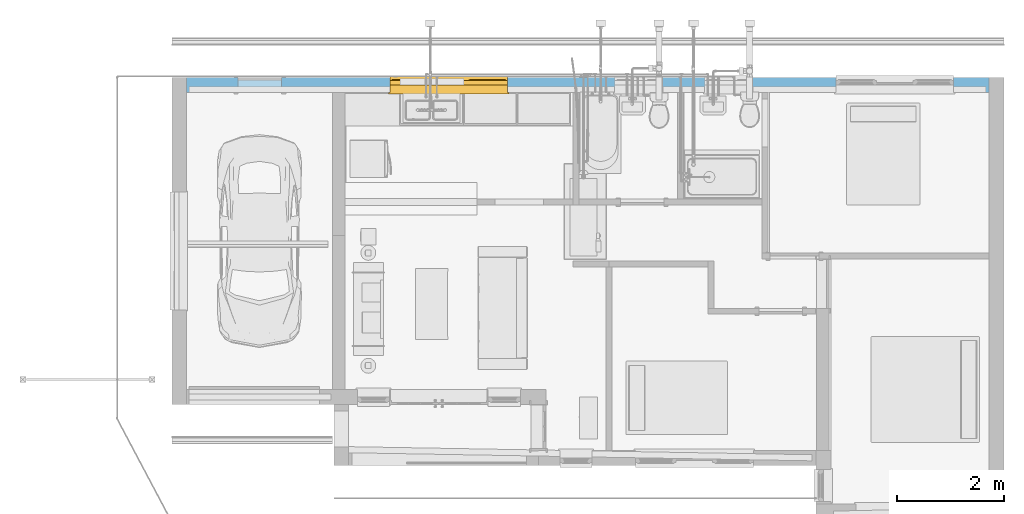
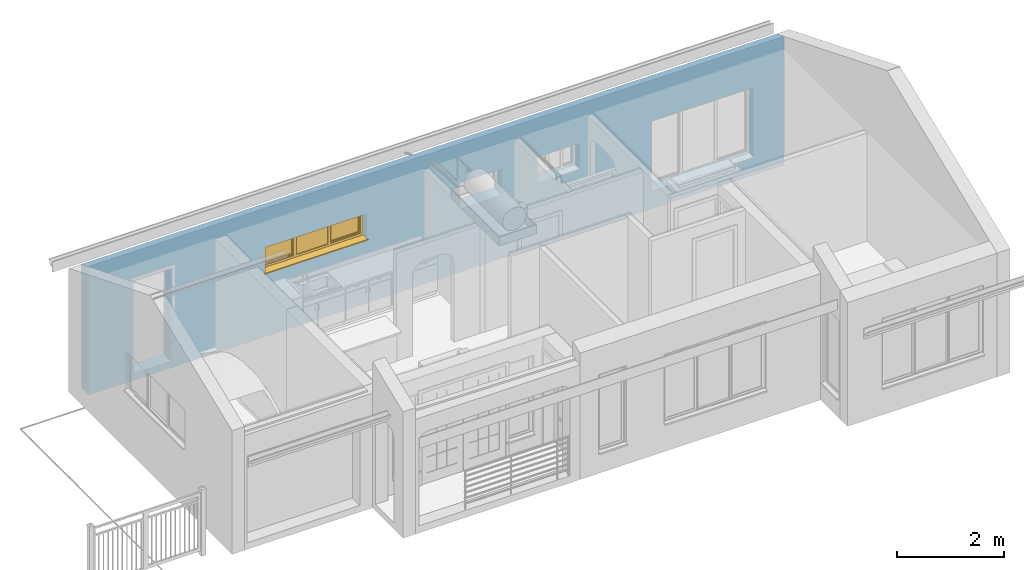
# One storey, part 12 of 41: 1 window, 5 openings, plus 1 element that does not belong to this part.
"""IFC2X3 building model written with IfcOpenShell, lengths in millimetres."""

from ifc_helpers import new_model, entity, si_unit, converted_unit, derived_unit, direction, frame, frame_2d, origin, place, context, subcontext, project, spatial, polyline, rectangle, extrude, clip, bounded_halfspace, faceted_brep, source, transform, mapped, material, material_list, layer, layer_set, layer_usage, type_object, type_shapes, element, fill, save


model = new_model("IFC2X3")

# Units and contexts
model_context = context("Model", 3, precision=0.01, world=origin(), true_north=direction((6.12303176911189e-17, 1.0)))
body_context = subcontext(model_context, "Body", "Model", "MODEL_VIEW")
ifc_project = project(units=[si_unit("LENGTHUNIT", "METRE", prefix="MILLI"), si_unit("AREAUNIT", "SQUARE_METRE"), si_unit("VOLUMEUNIT", "CUBIC_METRE"), converted_unit("PLANEANGLEUNIT", "DEGREE", entity("IfcRatioMeasure", 0.0174532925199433), si_unit("PLANEANGLEUNIT", "RADIAN"), dimensions=[0, 0, 0, 0, 0, 0, 0]), si_unit("MASSUNIT", "GRAM", prefix="KILO"), derived_unit("MASSDENSITYUNIT", [(si_unit("MASSUNIT", "GRAM", prefix="KILO"), 1), (si_unit("LENGTHUNIT", "METRE"), -3)]), si_unit("TIMEUNIT", "SECOND"), si_unit("FREQUENCYUNIT", "HERTZ"), si_unit("THERMODYNAMICTEMPERATUREUNIT", "DEGREE_CELSIUS"), derived_unit("THERMALTRANSMITTANCEUNIT", [(si_unit("MASSUNIT", "GRAM", prefix="KILO"), 1), (si_unit("THERMODYNAMICTEMPERATUREUNIT", "KELVIN"), -1), (si_unit("TIMEUNIT", "SECOND"), -3)]), derived_unit("VOLUMETRICFLOWRATEUNIT", [(si_unit("LENGTHUNIT", "METRE"), 3), (si_unit("TIMEUNIT", "SECOND"), -1)]), si_unit("ELECTRICCURRENTUNIT", "AMPERE"), si_unit("ELECTRICVOLTAGEUNIT", "VOLT"), si_unit("POWERUNIT", "WATT"), si_unit("FORCEUNIT", "NEWTON", prefix="KILO"), si_unit("ILLUMINANCEUNIT", "LUX"), si_unit("LUMINOUSFLUXUNIT", "LUMEN"), si_unit("LUMINOUSINTENSITYUNIT", "CANDELA"), derived_unit("USERDEFINED", [(si_unit("MASSUNIT", "GRAM", prefix="KILO"), -1), (si_unit("LENGTHUNIT", "METRE"), -2), (si_unit("TIMEUNIT", "SECOND"), 3), (si_unit("LUMINOUSFLUXUNIT", "LUMEN"), 1)]), derived_unit("LINEARVELOCITYUNIT", [(si_unit("LENGTHUNIT", "METRE"), 1), (si_unit("TIMEUNIT", "SECOND"), -1)]), si_unit("PRESSUREUNIT", "PASCAL"), derived_unit("USERDEFINED", [(si_unit("LENGTHUNIT", "METRE"), -2), (si_unit("MASSUNIT", "GRAM", prefix="KILO"), 1), (si_unit("TIMEUNIT", "SECOND"), -2)])], contexts=[model_context])

# Site, building, storey
site_placement = place(None, origin())
site = spatial("IfcSite", under=ifc_project, at=site_placement, Name="Surface", CompositionType="ELEMENT")
building_placement = place(site_placement, origin())
building = spatial("IfcBuilding", under=site, at=building_placement, CompositionType="ELEMENT")
storey_placement = place(building_placement, frame((0.0, 0.0, 300.0)))
storey = spatial("IfcBuildingStorey", under=building, at=storey_placement, Name="F.F.L", CompositionType="ELEMENT", Elevation=300.0)

# Wall, openings, window
ifc_material_1 = material(Name="Brickwork - Facebrick (Plettenberg Autumn)")
ifc_layer_1 = layer(ifc_material_1, 110.0)
ifc_material_2 = material(Name="Air Infiltration Barrier")
ifc_layer_2 = layer(ifc_material_2, 50.0)
ifc_material_3 = material(Name="Brickwork - 110mm (Stock)")
ifc_layer_3 = layer(ifc_material_3, 110.0)
ifc_material_4 = material(Name="Plaster")
ifc_layer_4 = layer(ifc_material_4, 10.0)
ifc_layer_set = layer_set([ifc_layer_1, ifc_layer_2, ifc_layer_3, ifc_layer_4], Name="Basic Wall:BrickWall - 270mm (Ext.F&Int.S)")
ifc_layer_usage = layer_usage(ifc_layer_set, "AXIS2", "NEGATIVE", 140.0)
wall_type = type_object("IfcWallType", Name="Basic Wall:BrickWall - 270mm (Ext.F&Int.S)", PredefinedType="STANDARD", material=ifc_layer_set)
wall_placement = place(storey_placement, frame((-11816.8751700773, 10685.8400891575, -150.0)))
wall = element("IfcWallStandardCase", 1, at=wall_placement, inside=storey, type_object=wall_type, material=ifc_layer_usage, Name="Basic Wall:BrickWall - 270mm (Ext.F&Int.S)", ObjectType="Basic Wall:BrickWall - 270mm (Ext.F&Int.S)", context=body_context, shape_type="Clipping", body=[
    clip(extrude(rectangle(XDim=15000.0, YDim=280.000000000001, at=frame_2d((7500.0, 1.98951966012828e-13), x_axis=(-1.0, 0.0))), origin(), (0.0, 0.0, 1.0), 2933.40741269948), bounded_halfspace(frame((0.0, -140.0, 2933.40741269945), z_axis=(0.0, 0.374606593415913, 0.927183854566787), x_axis=(-1.0, 0.0, 0.0)), False, frame((0.0, -140.0, 2933.40741269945)), polyline([(0.0, 0.0), (2730.0, 0.0), (2960.0, 0.0), (15000.0, 0.0), (15000.0, 280.0), (0.0, 280.0), (0.0, 0.0)]))),
])
opening_1_placement = place(wall_placement, frame((12140.0, -140.0, 400.0)))
element("IfcOpeningElement", 2, at=opening_1_placement, cuts=wall, Name="Tpl All Bars1:Tpl All Bars 4:1", ObjectType="Opening", context=body_context, shape_type="SweptSolid", body=[
    extrude(rectangle(XDim=1600.0, YDim=2200.0, at=frame_2d((800.0, 1100.0), x_axis=(-1.0, 0.0))), frame((0.0, 0.0, 0.0), z_axis=(0.0, 1.0, 0.0), x_axis=(0.0, 0.0, 1.0)), (0.0, 0.0, 1.0), 280.0),
])
opening_2_placement = place(wall_placement, frame((968.500000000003, -140.0, 150.0)))
element("IfcOpeningElement", 3, at=opening_2_placement, cuts=wall, Name="M_Single-Flush:0813 x 2134mm:1", ObjectType="Opening", context=body_context, shape_type="SweptSolid", body=[
    extrude(rectangle(XDim=813.0, YDim=2134.0, at=frame_2d((1067.0, 406.5), x_axis=(0.0, 1.0))), frame((0.0, 0.0, 0.0), z_axis=(0.0, 1.0, 0.0), x_axis=(0.0, 0.0, 1.0)), (0.0, 0.0, 1.0), 280.0),
])
opening_3_placement = place(wall_placement, frame((3805.0, -140.0, 1444.0)))
opening_3 = element("IfcOpeningElement", 4, at=opening_3_placement, cuts=wall, Name="Tpl All Bars1:Tpl All Bars 2:1", ObjectType="Opening", context=body_context, shape_type="SweptSolid", body=[
    extrude(rectangle(XDim=600.000000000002, YDim=2200.0, at=frame_2d((300.000000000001, 1100.0), x_axis=(-1.0, 0.0))), frame((0.0, 0.0, 0.0), z_axis=(0.0, 1.0, 0.0), x_axis=(0.0, 0.0, 1.0)), (0.0, 0.0, 1.0), 280.0),
])
opening_4_placement = place(wall_placement, frame((9685.0, -140.0, 1444.0)))
element("IfcOpeningElement", 5, at=opening_4_placement, cuts=wall, Name="Tpl All Bars1:Tpl All Bars 3:1", ObjectType="Opening", context=body_context, shape_type="SweptSolid", body=[
    extrude(rectangle(XDim=600.000000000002, YDim=899.999999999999, at=frame_2d((300.000000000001, 449.999999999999), x_axis=(-1.0, 0.0))), frame((0.0, 0.0, 0.0), z_axis=(0.0, 1.0, 0.0), x_axis=(0.0, 0.0, 1.0)), (0.0, 0.0, 1.0), 280.0),
])
opening_5_placement = place(wall_placement, frame((8005.0, -140.0, 1444.0)))
element("IfcOpeningElement", 6, at=opening_5_placement, cuts=wall, Name="Tpl All Bars1:Tpl All Bars 3:1", ObjectType="Opening", context=body_context, shape_type="SweptSolid", body=[
    extrude(rectangle(XDim=600.000000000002, YDim=899.999999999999, at=frame_2d((300.000000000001, 449.999999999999), x_axis=(-1.0, 0.0))), frame((0.0, 0.0, 0.0), z_axis=(0.0, 1.0, 0.0), x_axis=(0.0, 0.0, 1.0)), (0.0, 0.0, 1.0), 280.0),
])
ifc_material_5 = material(Name="Meranti - Varnish Mat")
ifc_material_6 = material(Name="Glass")
ifc_material_list_1 = material_list([ifc_material_5, ifc_material_6])
ifc_material_list_2 = material_list([ifc_material_5, ifc_material_6])
window_style = type_object("IfcWindowStyle", Name="Tpl All Bars 2", ConstructionType="NOTDEFINED", OperationType="TRIPLE_PANEL_VERTICAL", ParameterTakesPrecedence=False, Sizeable=False, material=ifc_material_list_2)
shared_shape = source(origin(), body_context, "Body", "Brep", [
    faceted_brep([(-25.0, -25.0, 0.0), (-25.0, 0.0, 0.0), (0.0, 0.0, 0.0), (0.0, 147.0, 0.0), (2200.0, 147.0, 0.0), (2200.0, 0.0, 0.0), (2225.0, 0.0, 0.0), (2225.0, -25.0, 0.0), (-25.0, -25.0, 25.0), (2225.0, -25.0, 25.0), (2225.0, 0.0, 25.0), (2200.0, 0.0, 25.0), (2200.0, 147.0, 25.0), (0.0, 147.0, 25.0), (0.0, 0.0, 25.0), (-25.0, 0.0, 25.0)], [[[0, 1, 2, 3, 4, 5, 6, 7]], [[8, 9, 10, 11, 12, 13, 14, 15]], [[1, 0, 8, 15]], [[2, 1, 15, 14]], [[3, 2, 14, 13]], [[4, 3, 13, 12]], [[5, 4, 12, 11]], [[6, 5, 11, 10]], [[7, 6, 10, 9]], [[0, 7, 9, 8]]]),
    faceted_brep([(2140.0, 147.0, 540.0), (2140.0, 147.0, 75.0), (1499.66666666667, 147.0, 75.0), (1499.66666666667, 147.0, 540.0), (1441.66666666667, 147.0, 540.0), (1441.66666666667, 147.0, 75.0), (758.333333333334, 147.0, 75.0), (758.333333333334, 147.0, 540.0), (700.333333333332, 147.0, 540.0), (700.333333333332, 147.0, 75.0), (60.0, 147.0, 75.0), (60.0, 147.0, 540.0), (2200.0, 147.0, 600.0), (0.0, 147.0, 600.0), (0.0, 147.0, 0.0), (2200.0, 147.0, 0.0), (0.0, 230.0, 600.0), (0.0, 230.0, 51.0), (0.0, 245.0, 49.6876700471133), (0.0, 245.0, 44.7449676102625), (0.0, 317.500000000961, 33.808884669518), (0.0, 317.500000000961, 0.0), (2200.0, 230.0, 600.0), (2200.0, 230.0, 51.0), (40.0, 230.0, 560.0), (40.0, 230.0, 63.0), (718.333333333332, 230.0, 63.0), (718.333333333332, 230.0, 560.0), (758.333333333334, 230.0, 560.0), (758.333333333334, 230.0, 63.0), (1441.66666666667, 230.0, 63.0), (1441.66666666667, 230.0, 560.0), (1481.66666666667, 230.0, 560.0), (1481.66666666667, 230.0, 63.0), (2160.0, 230.0, 63.0), (2160.0, 230.0, 560.0), (40.0, 165.0, 560.0), (40.0, 165.0, 63.0), (718.333333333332, 165.0, 560.0), (718.333333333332, 165.0, 63.0), (700.333333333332, 165.0, 540.0), (60.0, 165.0, 540.0), (60.0, 165.0, 75.0), (700.333333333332, 165.0, 75.0), (2200.0, 317.500000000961, 0.0), (2200.0, 317.500000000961, 33.808884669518), (2200.0, 245.0, 44.7449676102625), (2200.0, 245.0, 49.6876700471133), (2160.0, 165.0, 63.0), (2160.0, 165.0, 560.0), (2140.0, 165.0, 540.0), (2140.0, 165.0, 75.0), (758.333333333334, 165.0, 540.0), (758.333333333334, 165.0, 75.0), (758.333333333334, 189.0, 560.0), (758.333333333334, 189.0, 63.0), (748.333333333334, 189.0, 560.0), (748.333333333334, 189.0, 63.0), (748.333333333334, 165.0, 560.0), (748.333333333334, 165.0, 63.0), (1451.66666666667, 189.0, 560.0), (1451.66666666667, 189.0, 63.0), (1451.66666666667, 165.0, 63.0), (1451.66666666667, 165.0, 560.0), (1441.66666666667, 189.0, 560.0), (1441.66666666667, 189.0, 63.0), (1481.66666666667, 165.0, 560.0), (1481.66666666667, 165.0, 63.0), (1499.66666666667, 165.0, 540.0), (1499.66666666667, 165.0, 75.0), (1441.66666666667, 165.0, 540.0), (1441.66666666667, 165.0, 75.0)], [[[0, 1, 2, 3], [4, 5, 6, 7], [8, 9, 10, 11], [12, 13, 14, 15]], [[14, 13, 16, 17, 18, 19, 20, 21]], [[17, 16, 22, 23], [24, 25, 26, 27], [28, 29, 30, 31], [32, 33, 34, 35]], [[25, 24, 36, 37]], [[36, 38, 39, 37], [40, 41, 42, 43]], [[41, 11, 10, 42]], [[13, 12, 22, 16]], [[36, 24, 27, 38]], [[11, 41, 40, 8]], [[23, 22, 12, 15, 44, 45, 46, 47]], [[35, 34, 48, 49]], [[0, 50, 51, 1]], [[52, 7, 6, 53]], [[8, 40, 43, 9]], [[27, 26, 39, 38]], [[29, 28, 54, 55]], [[55, 54, 56, 57]], [[57, 56, 58, 59]], [[60, 61, 62, 63]], [[61, 60, 64, 65]], [[65, 64, 31, 30]], [[33, 32, 66, 67]], [[68, 3, 2, 69]], [[4, 70, 71, 5]], [[44, 15, 14, 21]], [[45, 44, 21, 20]], [[46, 45, 20, 19]], [[47, 46, 19, 18]], [[23, 47, 18, 17]], [[34, 33, 67, 48]], [[2, 1, 51, 69]], [[71, 53, 6, 5]], [[43, 42, 10, 9]], [[59, 62, 61, 65, 30, 29, 55, 57]], [[26, 25, 37, 39]], [[7, 52, 70, 4]], [[50, 0, 3, 68]], [[54, 28, 31, 64, 60, 63, 58, 56]], [[35, 49, 66, 32]], [[58, 63, 62, 59], [70, 52, 53, 71]], [[66, 49, 48, 67], [50, 68, 69, 51]]], outer=[[False, False, False, True], [True], [True, False, False, False], [True], [True, False], [True], [True], [True], [True], [True], [True], [True], [True], [True], [True], [True], [True], [True], [True], [True], [True], [True], [True], [True], [True], [True], [True], [True], [True], [True], [True], [True], [True], [True], [True], [True], [True], [True], [True], [True, False], [True, False]]),
    faceted_brep([(2130.0, 194.0, 530.0), (1511.66666666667, 194.0, 530.0), (1511.66666666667, 194.0, 93.0), (2130.0, 194.0, 93.0), (2130.0, 218.0, 530.0), (2130.0, 218.0, 93.0), (1511.66666666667, 218.0, 93.0), (1511.66666666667, 218.0, 530.0)], [[[0, 1, 2, 3]], [[4, 5, 6, 7]], [[1, 0, 4, 7]], [[2, 1, 7, 6]], [[3, 2, 6, 5]], [[0, 3, 5, 4]]]),
    faceted_brep([(1451.66666666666, 189.0, 560.0), (1451.66666666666, 189.0, 63.0), (748.333333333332, 189.0, 63.0), (748.333333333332, 189.0, 560.0), (1451.66666666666, 165.0, 560.0), (748.333333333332, 165.0, 560.0), (748.333333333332, 165.0, 63.0), (1451.66666666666, 165.0, 63.0)], [[[0, 1, 2, 3]], [[4, 5, 6, 7]], [[1, 0, 4, 7]], [[2, 1, 7, 6]], [[3, 2, 6, 5]], [[0, 3, 5, 4]]]),
    faceted_brep([(70.0, 194.0, 530.148037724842), (70.0, 194.0, 93.0), (688.481371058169, 194.0, 93.0), (688.481371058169, 194.0, 530.148037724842), (70.0, 218.0, 530.148037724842), (688.481371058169, 218.0, 530.148037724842), (688.481371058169, 218.0, 93.0), (70.0, 218.0, 93.0)], [[[0, 1, 2, 3]], [[4, 5, 6, 7]], [[1, 0, 4, 7]], [[2, 1, 7, 6]], [[3, 2, 6, 5]], [[0, 3, 5, 4]]]),
    faceted_brep([(728.333333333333, 230.0, 570.0), (728.333333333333, 235.773502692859, 570.0), (30.0, 235.773502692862, 570.0), (30.0, 230.0, 570.0), (718.333333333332, 165.0, 560.0), (718.333333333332, 230.0, 560.0), (40.0, 230.0, 560.0), (40.0, 165.0, 560.0), (678.333333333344, 179.492899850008, 520.0), (688.481371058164, 165.0, 530.148037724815), (69.8519622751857, 165.0, 530.148037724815), (80.0, 179.49289985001, 520.0), (678.333333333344, 194.0, 520.0), (80.0, 194.0, 520.0), (688.333333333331, 218.0, 530.0), (688.333333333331, 194.0, 530.0), (70.0, 194.0, 530.0), (70.0, 218.0, 530.0), (678.333333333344, 235.773502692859, 520.0), (678.333333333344, 218.0, 520.0), (80.0, 218.0, 520.0), (80.0, 235.773502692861, 520.0), (695.779088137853, 241.547005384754, 537.445754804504), (62.5542451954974, 241.547005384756, 537.445754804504), (717.548723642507, 241.547005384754, 559.215390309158), (40.7846096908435, 241.547005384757, 559.215390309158), (30.0, 235.773502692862, 53.0), (30.0, 230.0, 53.0), (40.0, 230.0, 63.0), (40.0, 165.0, 63.0), (69.851962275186, 165.0, 92.8519622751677), (80.0, 179.49289985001, 103.0), (80.0, 194.0, 103.0), (70.0, 194.0, 93.0), (70.0, 218.0, 93.0), (80.0, 218.0, 103.0), (80.0, 235.773502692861, 103.0), (62.5542451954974, 241.547005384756, 85.5542451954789), (40.7846096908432, 241.547005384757, 63.7846096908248), (728.333333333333, 235.773502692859, 53.0), (728.333333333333, 230.0, 53.0), (718.333333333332, 230.0, 63.0), (718.333333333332, 165.0, 63.0), (688.481371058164, 165.0, 92.8519622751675), (678.333333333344, 179.492899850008, 103.0), (678.333333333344, 194.0, 103.0), (688.333333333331, 194.0, 93.0), (688.333333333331, 218.0, 93.0), (678.333333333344, 218.0, 103.0), (678.333333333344, 235.773502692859, 103.0), (695.779088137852, 241.547005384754, 85.5542451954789), (717.548723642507, 241.547005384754, 63.7846096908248)], [[[0, 1, 2, 3]], [[4, 5, 6, 7]], [[8, 9, 10, 11]], [[12, 8, 11, 13]], [[14, 15, 16, 17]], [[18, 19, 20, 21]], [[22, 18, 21, 23]], [[1, 24, 25, 2]], [[3, 2, 26, 27]], [[7, 6, 28, 29]], [[11, 10, 30, 31]], [[13, 11, 31, 32]], [[17, 16, 33, 34]], [[21, 20, 35, 36]], [[23, 21, 36, 37]], [[2, 25, 38, 26]], [[27, 26, 39, 40]], [[0, 3, 27, 40], [41, 28, 6, 5]], [[29, 28, 41, 42]], [[4, 7, 29, 42], [43, 30, 10, 9]], [[31, 30, 43, 44]], [[32, 31, 44, 45]], [[12, 13, 32, 45], [46, 33, 16, 15]], [[34, 33, 46, 47]], [[14, 17, 34, 47], [48, 35, 20, 19]], [[36, 35, 48, 49]], [[37, 36, 49, 50]], [[22, 23, 37, 50], [51, 38, 25, 24]], [[26, 38, 51, 39]], [[40, 39, 1, 0]], [[42, 41, 5, 4]], [[44, 43, 9, 8]], [[45, 44, 8, 12]], [[47, 46, 15, 14]], [[49, 48, 19, 18]], [[50, 49, 18, 22]], [[39, 51, 24, 1]]], outer=[[True], [True], [True], [True], [True], [True], [True], [True], [True], [True], [True], [True], [True], [True], [True], [True], [True], [True, False], [True], [True, False], [True], [True], [False, True], [True], [True, False], [True], [True], [False, True], [True], [True], [True], [True], [True], [True], [True], [True], [True]]),
    faceted_brep([(1471.66666666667, 230.0, 570.0), (1471.66666666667, 235.773502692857, 570.0), (1471.66666666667, 235.773502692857, 53.0), (1471.66666666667, 230.0, 53.0), (1481.66666666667, 165.0, 560.0), (1481.66666666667, 230.0, 560.0), (1481.66666666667, 230.0, 63.0), (1481.66666666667, 165.0, 63.0), (1521.66666666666, 179.492899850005, 520.0), (1511.51862894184, 165.0, 530.148037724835), (1511.51862894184, 165.0, 92.8519622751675), (1521.66666666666, 179.492899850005, 103.0), (1521.66666666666, 194.0, 520.0), (1521.66666666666, 194.0, 103.0), (1511.66666666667, 218.0, 530.0), (1511.66666666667, 194.0, 530.0), (1511.66666666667, 194.0, 93.0), (1511.66666666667, 218.0, 93.0), (1521.66666666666, 235.773502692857, 520.0), (1521.66666666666, 218.0, 520.0), (1521.66666666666, 218.0, 103.0), (1521.66666666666, 235.773502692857, 103.0), (1504.22091186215, 241.547005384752, 537.445754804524), (1504.22091186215, 241.547005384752, 85.5542451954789), (1482.45127635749, 241.547005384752, 559.215390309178), (1482.45127635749, 241.547005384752, 63.7846096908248), (2170.0, 235.773502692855, 53.0), (2170.0, 230.0, 53.0), (2160.0, 230.0, 63.0), (2160.0, 165.0, 63.0), (2130.14803772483, 165.0, 92.8519622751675), (2120.0, 179.492899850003, 103.0), (2120.0, 194.0, 103.0), (2130.0, 194.0, 93.0), (2130.0, 218.0, 93.0), (2120.0, 218.0, 103.0), (2120.0, 235.773502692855, 103.0), (2137.44575480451, 241.54700538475, 85.5542451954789), (2159.21539030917, 241.54700538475, 63.784609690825), (2170.0, 235.773502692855, 570.0), (2170.0, 230.0, 570.0), (2160.0, 230.0, 560.0), (2160.0, 165.0, 560.0), (2130.14803772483, 165.0, 530.148037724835), (2120.0, 179.492899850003, 520.0), (2120.0, 194.0, 520.0), (2130.0, 194.0, 530.0), (2130.0, 218.0, 530.0), (2120.0, 218.0, 520.0), (2120.0, 235.773502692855, 520.0), (2137.44575480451, 241.54700538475, 537.445754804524), (2159.21539030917, 241.54700538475, 559.215390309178)], [[[0, 1, 2, 3]], [[4, 5, 6, 7]], [[8, 9, 10, 11]], [[12, 8, 11, 13]], [[14, 15, 16, 17]], [[18, 19, 20, 21]], [[22, 18, 21, 23]], [[1, 24, 25, 2]], [[3, 2, 26, 27]], [[7, 6, 28, 29]], [[11, 10, 30, 31]], [[13, 11, 31, 32]], [[17, 16, 33, 34]], [[21, 20, 35, 36]], [[23, 21, 36, 37]], [[2, 25, 38, 26]], [[27, 26, 39, 40]], [[29, 28, 41, 42]], [[31, 30, 43, 44]], [[32, 31, 44, 45]], [[34, 33, 46, 47]], [[36, 35, 48, 49]], [[37, 36, 49, 50]], [[26, 38, 51, 39]], [[40, 39, 1, 0]], [[3, 27, 40, 0], [5, 41, 28, 6]], [[42, 41, 5, 4]], [[7, 29, 42, 4], [9, 43, 30, 10]], [[44, 43, 9, 8]], [[45, 44, 8, 12]], [[13, 32, 45, 12], [15, 46, 33, 16]], [[47, 46, 15, 14]], [[17, 34, 47, 14], [19, 48, 35, 20]], [[49, 48, 19, 18]], [[50, 49, 18, 22]], [[23, 37, 50, 22], [24, 51, 38, 25]], [[39, 51, 24, 1]]], outer=[[True], [True], [True], [True], [True], [True], [True], [True], [True], [True], [True], [True], [True], [True], [True], [True], [True], [True], [True], [True], [True], [True], [True], [True], [True], [True, False], [True], [True, False], [True], [True], [False, True], [True], [True, False], [True], [True], [False, True], [True]]),
    faceted_brep([(1090.0, 173.0, 63.0), (1110.0, 173.0, 63.0), (1110.0, 173.0, 218.666666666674), (1451.66666666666, 173.0, 218.666666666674), (1451.66666666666, 173.0, 238.666666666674), (1110.0, 173.0, 238.666666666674), (1110.0, 173.0, 384.333333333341), (1451.66666666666, 173.0, 384.333333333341), (1451.66666666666, 173.0, 404.333333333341), (1110.0, 173.0, 404.333333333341), (1110.0, 173.0, 560.0), (1090.0, 173.0, 560.0), (1090.0, 173.0, 404.333333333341), (748.33333333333, 173.0, 404.333333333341), (748.33333333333, 173.0, 384.333333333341), (1090.0, 173.0, 384.333333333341), (1090.0, 173.0, 238.666666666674), (748.33333333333, 173.0, 238.666666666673), (748.33333333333, 173.0, 218.666666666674), (1090.0, 173.0, 218.666666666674), (1090.0, 181.0, 63.0), (1090.0, 181.0, 218.666666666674), (748.33333333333, 181.0, 218.666666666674), (748.33333333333, 181.0, 238.666666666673), (1090.0, 181.0, 238.666666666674), (1090.0, 181.0, 384.333333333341), (748.33333333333, 181.0, 384.333333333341), (748.33333333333, 181.0, 404.333333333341), (1090.0, 181.0, 404.333333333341), (1090.0, 181.0, 560.0), (1110.0, 181.0, 560.0), (1110.0, 181.0, 404.333333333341), (1451.66666666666, 181.0, 404.333333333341), (1451.66666666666, 181.0, 384.333333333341), (1110.0, 181.0, 384.333333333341), (1110.0, 181.0, 238.666666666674), (1451.66666666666, 181.0, 238.666666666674), (1451.66666666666, 181.0, 218.666666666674), (1110.0, 181.0, 218.666666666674), (1110.0, 181.0, 63.0)], [[[0, 1, 2, 3, 4, 5, 6, 7, 8, 9, 10, 11, 12, 13, 14, 15, 16, 17, 18, 19]], [[20, 21, 22, 23, 24, 25, 26, 27, 28, 29, 30, 31, 32, 33, 34, 35, 36, 37, 38, 39]], [[1, 0, 20, 39]], [[2, 1, 39, 38]], [[3, 2, 38, 37]], [[4, 3, 37, 36]], [[5, 4, 36, 35]], [[6, 5, 35, 34]], [[7, 6, 34, 33]], [[8, 7, 33, 32]], [[9, 8, 32, 31]], [[10, 9, 31, 30]], [[11, 10, 30, 29]], [[12, 11, 29, 28]], [[13, 12, 28, 27]], [[14, 13, 27, 26]], [[15, 14, 26, 25]], [[16, 15, 25, 24]], [[17, 16, 24, 23]], [[18, 17, 23, 22]], [[19, 18, 22, 21]], [[0, 19, 21, 20]]]),
    faceted_brep([(369.166666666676, 210.0, 93.0), (369.166666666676, 210.0, 218.666666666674), (70.0, 210.0, 218.666666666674), (70.0, 210.0, 238.666666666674), (369.166666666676, 210.0, 238.666666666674), (369.166666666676, 210.0, 384.333333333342), (70.0, 210.0, 384.333333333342), (70.0, 210.0, 404.333333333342), (369.166666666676, 210.0, 404.333333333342), (369.166666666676, 210.0, 530.0), (389.166666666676, 210.0, 530.0), (389.166666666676, 210.0, 404.333333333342), (688.333333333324, 210.0, 404.333333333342), (688.333333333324, 210.0, 384.333333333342), (389.166666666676, 210.0, 384.333333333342), (389.166666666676, 210.0, 238.666666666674), (688.333333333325, 210.0, 238.666666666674), (688.333333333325, 210.0, 218.666666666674), (389.166666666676, 210.0, 218.666666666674), (389.166666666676, 210.0, 93.0), (369.166666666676, 202.0, 93.0), (389.166666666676, 202.0, 93.0), (389.166666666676, 202.0, 218.666666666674), (688.333333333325, 202.0, 218.666666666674), (688.333333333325, 202.0, 238.666666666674), (389.166666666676, 202.0, 238.666666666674), (389.166666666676, 202.0, 384.333333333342), (688.333333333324, 202.0, 384.333333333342), (688.333333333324, 202.0, 404.333333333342), (389.166666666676, 202.0, 404.333333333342), (389.166666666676, 202.0, 530.0), (369.166666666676, 202.0, 530.0), (369.166666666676, 202.0, 404.333333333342), (70.0, 202.0, 404.333333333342), (70.0, 202.0, 384.333333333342), (369.166666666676, 202.0, 384.333333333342), (369.166666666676, 202.0, 238.666666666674), (70.0, 202.0, 238.666666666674), (70.0, 202.0, 218.666666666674), (369.166666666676, 202.0, 218.666666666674)], [[[0, 1, 2, 3, 4, 5, 6, 7, 8, 9, 10, 11, 12, 13, 14, 15, 16, 17, 18, 19]], [[20, 21, 22, 23, 24, 25, 26, 27, 28, 29, 30, 31, 32, 33, 34, 35, 36, 37, 38, 39]], [[1, 0, 20, 39]], [[2, 1, 39, 38]], [[3, 2, 38, 37]], [[4, 3, 37, 36]], [[5, 4, 36, 35]], [[6, 5, 35, 34]], [[7, 6, 34, 33]], [[8, 7, 33, 32]], [[9, 8, 32, 31]], [[10, 9, 31, 30]], [[11, 10, 30, 29]], [[12, 11, 29, 28]], [[13, 12, 28, 27]], [[14, 13, 27, 26]], [[15, 14, 26, 25]], [[16, 15, 25, 24]], [[17, 16, 24, 23]], [[18, 17, 23, 22]], [[19, 18, 22, 21]], [[0, 19, 21, 20]]]),
    faceted_brep([(1810.83333333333, 210.0, 232.0), (1810.83333333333, 210.0, 93.0), (1810.83333333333, 202.0, 93.0), (1810.83333333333, 202.0, 232.0), (1511.66666666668, 210.0, 232.0), (1511.66666666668, 202.0, 232.0), (1511.66666666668, 210.0, 252.0), (1511.66666666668, 202.0, 252.0), (1810.83333333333, 210.0, 252.0), (1810.83333333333, 202.0, 252.0), (1810.83333333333, 210.0, 384.333333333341), (1810.83333333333, 202.0, 384.333333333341), (1511.66666666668, 210.0, 384.333333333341), (1511.66666666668, 202.0, 384.333333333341), (1511.66666666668, 210.0, 404.333333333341), (1511.66666666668, 202.0, 404.333333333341), (1810.83333333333, 210.0, 404.333333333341), (1810.83333333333, 202.0, 404.333333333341), (1810.83333333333, 210.0, 530.0), (1810.83333333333, 202.0, 530.0), (1830.83333333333, 210.0, 530.0), (1830.83333333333, 202.0, 530.0), (1830.83333333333, 210.0, 404.333333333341), (1830.83333333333, 202.0, 404.333333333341), (2130.0, 210.0, 404.333333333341), (2130.0, 202.0, 404.333333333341), (2130.0, 210.0, 384.333333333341), (2130.0, 202.0, 384.333333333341), (1830.83333333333, 210.0, 384.333333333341), (1830.83333333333, 202.0, 384.333333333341), (1830.83333333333, 210.0, 252.0), (1830.83333333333, 202.0, 252.0), (2130.0, 210.0, 252.0), (2130.0, 202.0, 252.0), (2130.0, 210.0, 232.0), (2130.0, 202.0, 232.0), (1830.83333333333, 210.0, 232.0), (1830.83333333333, 202.0, 232.0), (1830.83333333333, 210.0, 93.0), (1830.83333333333, 202.0, 93.0)], [[[0, 1, 2, 3]], [[4, 0, 3, 5]], [[6, 4, 5, 7]], [[8, 6, 7, 9]], [[10, 8, 9, 11]], [[12, 10, 11, 13]], [[14, 12, 13, 15]], [[16, 14, 15, 17]], [[18, 16, 17, 19]], [[20, 18, 19, 21]], [[22, 20, 21, 23]], [[24, 22, 23, 25]], [[26, 24, 25, 27]], [[28, 26, 27, 29]], [[30, 28, 29, 31]], [[32, 30, 31, 33]], [[34, 32, 33, 35]], [[36, 34, 35, 37]], [[38, 36, 37, 39]], [[1, 38, 39, 2]], [[2, 39, 37, 35, 33, 31, 29, 27, 25, 23, 21, 19, 17, 15, 13, 11, 9, 7, 5, 3]], [[1, 0, 4, 6, 8, 10, 12, 14, 16, 18, 20, 22, 24, 26, 28, 30, 32, 34, 36, 38]]]),
])
type_shapes(window_style, [shared_shape])
window_placement = place(opening_3_placement, origin())
window = element("IfcWindow", 7, at=window_placement, inside=storey, type_object=window_style, material=ifc_material_list_1, Name="Tpl All Bars1:Tpl All Bars 2", ObjectType="Tpl All Bars 2", OverallHeight=600.000000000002, OverallWidth=2200.0, context=body_context, shape_type="MappedRepresentation", body=[
    mapped(shared_shape, transform((0.0, 0.0, 0.0), scale=1.0)),
])
fill(opening_3, window)

save(model, "model.ifc")
